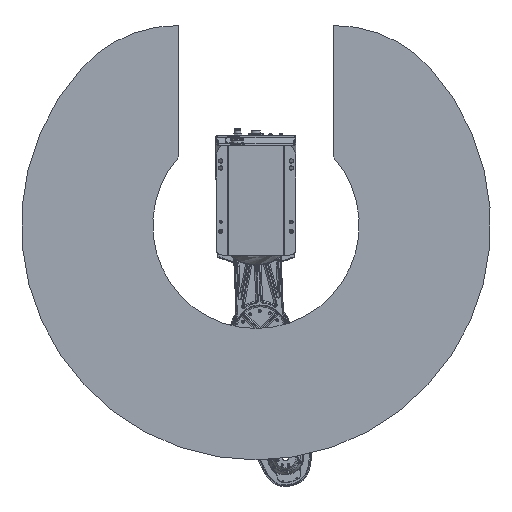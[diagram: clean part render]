
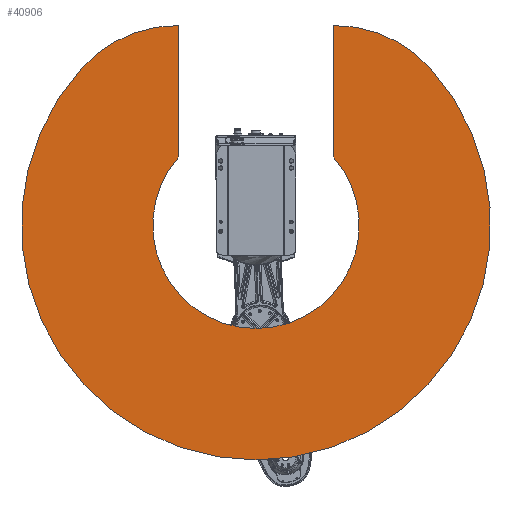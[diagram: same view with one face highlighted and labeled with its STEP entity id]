
A CAD part, front view. The second image highlights one B-rep face of the part: STEP entity #40906.
In plain terms, the highlighted planar face has unit normal (0, -1, 0).
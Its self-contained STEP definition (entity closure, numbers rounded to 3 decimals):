
#6953 = DIRECTION ( 'NONE',  ( 0., 0., -1. ) ) ;
#13901 = CARTESIAN_POINT ( 'NONE',  ( 0., 0., 0. ) ) ;
#16247 = ORIENTED_EDGE ( 'NONE', *, *, #327052, .T. ) ;
#21312 = CARTESIAN_POINT ( 'NONE',  ( -371.572, 0., 334.565 ) ) ;
#22081 = DIRECTION ( 'NONE',  ( 0., 0., -1. ) ) ;
#24667 = VERTEX_POINT ( 'NONE', #127062 ) ;
#29836 = PLANE ( 'NONE',  #260889 ) ;
#40786 = ORIENTED_EDGE ( 'NONE', *, *, #63916, .F. ) ;
#40906 = ADVANCED_FACE ( 'NONE', ( #262772 ), #29836, .F. ) ;
#42653 = DIRECTION ( 'NONE',  ( 0., 0., -1. ) ) ;
#49735 = ORIENTED_EDGE ( 'NONE', *, *, #360430, .F. ) ;
#51709 = DIRECTION ( 'NONE',  ( 0., 0., -1. ) ) ;
#52067 = VERTEX_POINT ( 'NONE', #289596 ) ;
#54740 = CARTESIAN_POINT ( 'NONE',  ( 165., 0., 425.546 ) ) ;
#58660 = DIRECTION ( 'NONE',  ( 0., 1., 0. ) ) ;
#59778 = EDGE_CURVE ( 'NONE', #360986, #286143, #199056, .T. ) ;
#63916 = EDGE_CURVE ( 'NONE', #184764, #24667, #227234, .T. ) ;
#69711 = AXIS2_PLACEMENT_3D ( 'NONE', #128912, #328831, #157571 ) ;
#75606 = CARTESIAN_POINT ( 'NONE',  ( 371.572, 0., 334.565 ) ) ;
#85148 = DIRECTION ( 'NONE',  ( 0., 1., 0. ) ) ;
#90532 = CIRCLE ( 'NONE', #159598, 500. ) ;
#91530 = VERTEX_POINT ( 'NONE', #350163 ) ;
#108367 = EDGE_CURVE ( 'NONE', #52067, #332620, #191943, .T. ) ;
#111940 = LINE ( 'NONE', #222984, #178990 ) ;
#127062 = CARTESIAN_POINT ( 'NONE',  ( 0., 0., -500. ) ) ;
#128912 = CARTESIAN_POINT ( 'NONE',  ( -167.208, 0., 150.554 ) ) ;
#131275 = DIRECTION ( 'NONE',  ( 0., 1., 0. ) ) ;
#140714 = ORIENTED_EDGE ( 'NONE', *, *, #310495, .F. ) ;
#157571 = DIRECTION ( 'NONE',  ( 0., 0., -1. ) ) ;
#159598 = AXIS2_PLACEMENT_3D ( 'NONE', #256395, #85148, #285161 ) ;
#169389 = CIRCLE ( 'NONE', #193967, 220. ) ;
#171416 = ORIENTED_EDGE ( 'NONE', *, *, #108367, .T. ) ;
#178109 = DIRECTION ( 'NONE',  ( 0., 1., 0. ) ) ;
#178990 = VECTOR ( 'NONE', #51709, 1000. ) ;
#184764 = VERTEX_POINT ( 'NONE', #75606 ) ;
#191943 = CIRCLE ( 'NONE', #321492, 220. ) ;
#193286 = DIRECTION ( 'NONE',  ( 0., 1., 0. ) ) ;
#193967 = AXIS2_PLACEMENT_3D ( 'NONE', #349409, #178109, #6953 ) ;
#197630 = CIRCLE ( 'NONE', #296947, 275. ) ;
#199056 = LINE ( 'NONE', #280531, #351082 ) ;
#201093 = CARTESIAN_POINT ( 'NONE',  ( 0., 0., 0. ) ) ;
#213854 = DIRECTION ( 'NONE',  ( 0., 1., 0. ) ) ;
#222984 = CARTESIAN_POINT ( 'NONE',  ( -165., 0., 0. ) ) ;
#227234 = CIRCLE ( 'NONE', #359636, 500. ) ;
#256395 = CARTESIAN_POINT ( 'NONE',  ( 0., 0., 0. ) ) ;
#258561 = DIRECTION ( 'NONE',  ( 0., 0., 1. ) ) ;
#260889 = AXIS2_PLACEMENT_3D ( 'NONE', #201093, #58660, #258561 ) ;
#262772 = FACE_OUTER_BOUND ( 'NONE', #349233, .T. ) ;
#270415 = EDGE_CURVE ( 'NONE', #360986, #184764, #197630, .T. ) ;
#271346 = EDGE_CURVE ( 'NONE', #323058, #91530, #272626, .T. ) ;
#272626 = CIRCLE ( 'NONE', #69711, 275. ) ;
#279450 = ORIENTED_EDGE ( 'NONE', *, *, #59778, .T. ) ;
#280531 = CARTESIAN_POINT ( 'NONE',  ( 165., 0., 0. ) ) ;
#285161 = DIRECTION ( 'NONE',  ( 0., 0., -1. ) ) ;
#286143 = VERTEX_POINT ( 'NONE', #299557 ) ;
#289596 = CARTESIAN_POINT ( 'NONE',  ( 0., 0., -220. ) ) ;
#293673 = CARTESIAN_POINT ( 'NONE',  ( -165., 0., 145.516 ) ) ;
#293850 = ORIENTED_EDGE ( 'NONE', *, *, #270415, .F. ) ;
#296947 = AXIS2_PLACEMENT_3D ( 'NONE', #302528, #131275, #331211 ) ;
#299557 = CARTESIAN_POINT ( 'NONE',  ( 165., 0., 145.516 ) ) ;
#302528 = CARTESIAN_POINT ( 'NONE',  ( 167.208, 0., 150.554 ) ) ;
#308007 = DIRECTION ( 'NONE',  ( 0., 0., -1. ) ) ;
#310495 = EDGE_CURVE ( 'NONE', #91530, #332620, #111940, .T. ) ;
#321492 = AXIS2_PLACEMENT_3D ( 'NONE', #364593, #193286, #22081 ) ;
#323058 = VERTEX_POINT ( 'NONE', #21312 ) ;
#327052 = EDGE_CURVE ( 'NONE', #286143, #52067, #169389, .T. ) ;
#328831 = DIRECTION ( 'NONE',  ( 0., 1., 0. ) ) ;
#331211 = DIRECTION ( 'NONE',  ( 0., 0., -1. ) ) ;
#332346 = ORIENTED_EDGE ( 'NONE', *, *, #271346, .F. ) ;
#332620 = VERTEX_POINT ( 'NONE', #293673 ) ;
#349233 = EDGE_LOOP ( 'NONE', ( #293850, #279450, #16247, #171416, #140714, #332346, #49735, #40786 ) ) ;
#349409 = CARTESIAN_POINT ( 'NONE',  ( 0., 0., 0. ) ) ;
#350163 = CARTESIAN_POINT ( 'NONE',  ( -165., 0., 425.546 ) ) ;
#351082 = VECTOR ( 'NONE', #308007, 1000. ) ;
#359636 = AXIS2_PLACEMENT_3D ( 'NONE', #13901, #213854, #42653 ) ;
#360430 = EDGE_CURVE ( 'NONE', #24667, #323058, #90532, .T. ) ;
#360986 = VERTEX_POINT ( 'NONE', #54740 ) ;
#364593 = CARTESIAN_POINT ( 'NONE',  ( 0., 0., 0. ) ) ;
